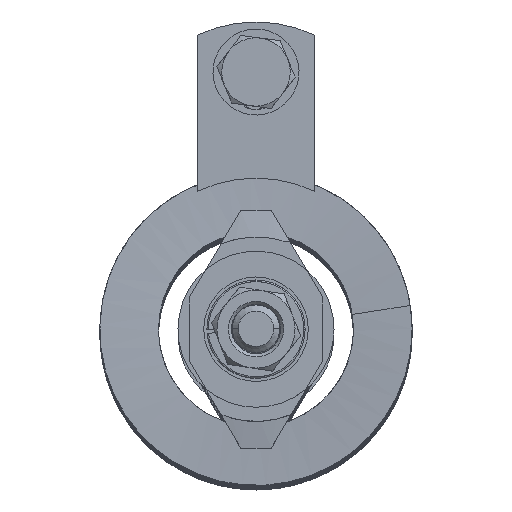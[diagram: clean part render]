
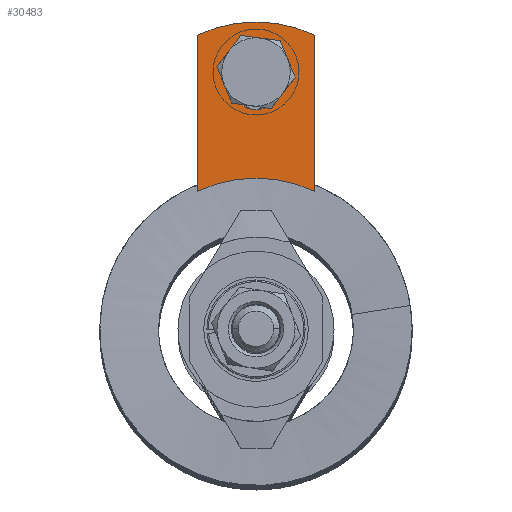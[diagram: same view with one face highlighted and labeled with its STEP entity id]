
A CAD part, top view. The second image highlights one B-rep face of the part: STEP entity #30483.
In plain terms, the highlighted planar face has unit normal (0, 0, 1).
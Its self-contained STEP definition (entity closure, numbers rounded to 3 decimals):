
#13040 = EDGE_LOOP ( 'NONE', ( #133240, #133238, #133236, #133234, #133232, #133230 ) ) ;
#13064 = EDGE_LOOP ( 'NONE', ( #133251, #133249, #133247, #133245, #133243 ) ) ;
#15123 = AXIS2_PLACEMENT_3D ( 'NONE', #122615, #122609, #122622 ) ;
#27454 = FACE_BOUND ( 'NONE', #13064, .T. ) ;
#27456 = FACE_OUTER_BOUND ( 'NONE', #13040, .T. ) ;
#28932 = VERTEX_POINT ( 'NONE', #95698 ) ;
#28940 = VERTEX_POINT ( 'NONE', #95714 ) ;
#28941 = VERTEX_POINT ( 'NONE', #95716 ) ;
#28942 = VERTEX_POINT ( 'NONE', #95718 ) ;
#28946 = VERTEX_POINT ( 'NONE', #95726 ) ;
#28948 = VERTEX_POINT ( 'NONE', #95730 ) ;
#28949 = VERTEX_POINT ( 'NONE', #95732 ) ;
#28966 = VERTEX_POINT ( 'NONE', #95766 ) ;
#28967 = VERTEX_POINT ( 'NONE', #95768 ) ;
#28969 = VERTEX_POINT ( 'NONE', #95772 ) ;
#28991 = VERTEX_POINT ( 'NONE', #95816 ) ;
#30483 = ADVANCED_FACE ( 'NONE', ( #27454, #27456 ), #122618, .T. ) ;
#34280 = DIRECTION ( 'NONE',  ( 1., 0., 0. ) ) ;
#34284 = DIRECTION ( 'NONE',  ( -1., 0., 0. ) ) ;
#34286 = CARTESIAN_POINT ( 'NONE',  ( 19.05, -9.525, 0. ) ) ;
#34288 = CARTESIAN_POINT ( 'NONE',  ( -3.175, 0., 0. ) ) ;
#34290 = DIRECTION ( 'NONE',  ( 0., 0., 1. ) ) ;
#34292 = DIRECTION ( 'NONE',  ( 1., 0., 0. ) ) ;
#34301 = CARTESIAN_POINT ( 'NONE',  ( -28.575, 0., 0. ) ) ;
#34303 = DIRECTION ( 'NONE',  ( 0., 0., -1. ) ) ;
#34305 = DIRECTION ( 'NONE',  ( 1., 0., 0. ) ) ;
#34311 = CARTESIAN_POINT ( 'NONE',  ( 19.05, 9.525, 0. ) ) ;
#34314 = DIRECTION ( 'NONE',  ( -1., 0., 0. ) ) ;
#34317 = DIRECTION ( 'NONE',  ( 1., 0., 0. ) ) ;
#34319 = CARTESIAN_POINT ( 'NONE',  ( 0., 3.373, 0. ) ) ;
#34321 = CARTESIAN_POINT ( 'NONE',  ( 0., -3.373, 0. ) ) ;
#34323 = CARTESIAN_POINT ( 'NONE',  ( 8.136, 0., 0. ) ) ;
#34325 = DIRECTION ( 'NONE',  ( 0., 0., -1. ) ) ;
#34327 = DIRECTION ( 'NONE',  ( 1., 0., 0. ) ) ;
#34336 = CARTESIAN_POINT ( 'NONE',  ( 10.914, 0., 0. ) ) ;
#34338 = DIRECTION ( 'NONE',  ( 0., 0., -1. ) ) ;
#34340 = DIRECTION ( 'NONE',  ( 1., 0., 0. ) ) ;
#34444 = CARTESIAN_POINT ( 'NONE',  ( -3.175, 0., 0. ) ) ;
#34446 = DIRECTION ( 'NONE',  ( 0., 0., 1. ) ) ;
#34448 = DIRECTION ( 'NONE',  ( 1., 0., 0. ) ) ;
#34470 = CARTESIAN_POINT ( 'NONE',  ( 10.914, 0., 0. ) ) ;
#34472 = DIRECTION ( 'NONE',  ( 0., 0., -1. ) ) ;
#34474 = DIRECTION ( 'NONE',  ( 1., 0., 0. ) ) ;
#34494 = CARTESIAN_POINT ( 'NONE',  ( -28.575, 0., 0. ) ) ;
#34496 = DIRECTION ( 'NONE',  ( 0., 0., -1. ) ) ;
#34498 = DIRECTION ( 'NONE',  ( 1., 0., 0. ) ) ;
#95698 = CARTESIAN_POINT ( 'NONE',  ( 14.287, 0., 0. ) ) ;
#95714 = CARTESIAN_POINT ( 'NONE',  ( 10.914, -3.373, 0. ) ) ;
#95716 = CARTESIAN_POINT ( 'NONE',  ( -8.495, -9.525, 0. ) ) ;
#95718 = CARTESIAN_POINT ( 'NONE',  ( 8.136, -3.373, 0. ) ) ;
#95726 = CARTESIAN_POINT ( 'NONE',  ( 16.905, -9.525, 0. ) ) ;
#95730 = CARTESIAN_POINT ( 'NONE',  ( 16.905, 9.525, 0. ) ) ;
#95732 = CARTESIAN_POINT ( 'NONE',  ( 19.05, 0., 0. ) ) ;
#95766 = CARTESIAN_POINT ( 'NONE',  ( -6.35, 0., 0. ) ) ;
#95768 = CARTESIAN_POINT ( 'NONE',  ( -8.495, 9.525, 0. ) ) ;
#95772 = CARTESIAN_POINT ( 'NONE',  ( 10.914, 3.373, 0. ) ) ;
#95816 = CARTESIAN_POINT ( 'NONE',  ( 8.136, 3.373, 0. ) ) ;
#115861 = AXIS2_PLACEMENT_3D ( 'NONE', #34288, #34290, #34292 ) ;
#115862 = AXIS2_PLACEMENT_3D ( 'NONE', #34301, #34303, #34305 ) ;
#115863 = AXIS2_PLACEMENT_3D ( 'NONE', #34323, #34325, #34327 ) ;
#115864 = AXIS2_PLACEMENT_3D ( 'NONE', #34336, #34338, #34340 ) ;
#115869 = AXIS2_PLACEMENT_3D ( 'NONE', #34444, #34446, #34448 ) ;
#115871 = AXIS2_PLACEMENT_3D ( 'NONE', #34470, #34472, #34474 ) ;
#115873 = AXIS2_PLACEMENT_3D ( 'NONE', #34494, #34496, #34498 ) ;
#120042 = EDGE_CURVE ( 'NONE', #28949, #28948, #125173, .T. ) ;
#120043 = EDGE_CURVE ( 'NONE', #28941, #28946, #125179, .T. ) ;
#120044 = EDGE_CURVE ( 'NONE', #28966, #28941, #125182, .T. ) ;
#120046 = EDGE_CURVE ( 'NONE', #28948, #28967, #125184, .T. ) ;
#120047 = EDGE_CURVE ( 'NONE', #28942, #28991, #125185, .T. ) ;
#120048 = EDGE_CURVE ( 'NONE', #28940, #28942, #125181, .T. ) ;
#120049 = EDGE_CURVE ( 'NONE', #28932, #28940, #125188, .T. ) ;
#120050 = EDGE_CURVE ( 'NONE', #28991, #28969, #125190, .T. ) ;
#120062 = EDGE_CURVE ( 'NONE', #28946, #28949, #125205, .T. ) ;
#120066 = EDGE_CURVE ( 'NONE', #28969, #28932, #125211, .T. ) ;
#120070 = EDGE_CURVE ( 'NONE', #28967, #28966, #125217, .T. ) ;
#122609 = DIRECTION ( 'NONE',  ( 0., 0., 1. ) ) ;
#122615 = CARTESIAN_POINT ( 'NONE',  ( 0., 0., 0. ) ) ;
#122618 = PLANE ( 'NONE',  #15123 ) ;
#122622 = DIRECTION ( 'NONE',  ( 1., 0., 0. ) ) ;
#125173 = CIRCLE ( 'NONE', #115861, 22.225 ) ;
#125179 = LINE ( 'NONE', #34286, #125183 ) ;
#125181 = LINE ( 'NONE', #34321, #125189 ) ;
#125182 = CIRCLE ( 'NONE', #115862, 22.225 ) ;
#125183 = VECTOR ( 'NONE', #34280, 1000. ) ;
#125184 = LINE ( 'NONE', #34311, #125186 ) ;
#125185 = CIRCLE ( 'NONE', #115863, 3.373 ) ;
#125186 = VECTOR ( 'NONE', #34314, 1000. ) ;
#125188 = CIRCLE ( 'NONE', #115864, 3.373 ) ;
#125189 = VECTOR ( 'NONE', #34284, 1000. ) ;
#125190 = LINE ( 'NONE', #34319, #125191 ) ;
#125191 = VECTOR ( 'NONE', #34317, 1000. ) ;
#125205 = CIRCLE ( 'NONE', #115869, 22.225 ) ;
#125211 = CIRCLE ( 'NONE', #115871, 3.373 ) ;
#125217 = CIRCLE ( 'NONE', #115873, 22.225 ) ;
#133230 = ORIENTED_EDGE ( 'NONE', *, *, #120042, .T. ) ;
#133232 = ORIENTED_EDGE ( 'NONE', *, *, #120062, .T. ) ;
#133234 = ORIENTED_EDGE ( 'NONE', *, *, #120043, .T. ) ;
#133236 = ORIENTED_EDGE ( 'NONE', *, *, #120044, .T. ) ;
#133238 = ORIENTED_EDGE ( 'NONE', *, *, #120070, .T. ) ;
#133240 = ORIENTED_EDGE ( 'NONE', *, *, #120046, .T. ) ;
#133243 = ORIENTED_EDGE ( 'NONE', *, *, #120047, .T. ) ;
#133245 = ORIENTED_EDGE ( 'NONE', *, *, #120048, .T. ) ;
#133247 = ORIENTED_EDGE ( 'NONE', *, *, #120049, .T. ) ;
#133249 = ORIENTED_EDGE ( 'NONE', *, *, #120066, .T. ) ;
#133251 = ORIENTED_EDGE ( 'NONE', *, *, #120050, .T. ) ;
